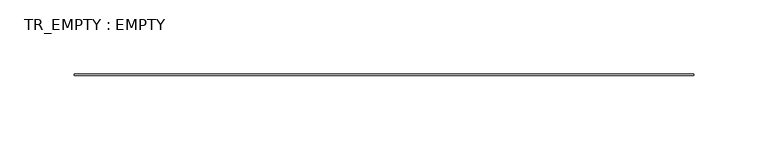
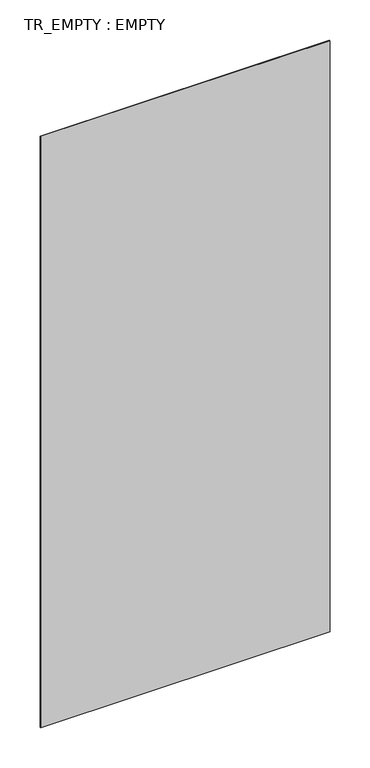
"""IFC4 building model written with IfcOpenShell, lengths in millimetres: plate geometry, TR_EMPTY : EMPTY."""

import ifcopenshell
import ifcopenshell.guid

model = None  # the IFC model being written
_history = None  # IfcOwnerHistory: only IFC2X3 demands one
_inside = {}  # id of a spatial element -> (the spatial element, [elements in it])
_under = {}  # id of a project, library or spatial element -> (it, [spatial elements below it])
_declared = {}  # id of a project -> (the project, [libraries it declares])
_typed = {}  # id of a type object -> (the type object, [elements of that type])
_made_of = {}  # id of a material, layer set ... -> (it, [elements and type objects made of it])


def new_model(schema):
    """Start an empty IFC model of exactly this schema.

    Asked for "IFC4X3", IfcOpenShell would pick the latest addendum, in which some entities
    have other attributes; the version numbers below select the first issue.
    IFC2X3 requires an IfcOwnerHistory on every rooted entity: one is made here for all.
    """
    global model, _history
    if schema == "IFC4X3":
        model = ifcopenshell.file(schema_version=(4, 3, 0, 0))
    else:
        model = ifcopenshell.file(schema=schema)
    _inside.clear()
    _under.clear()
    _declared.clear()
    _typed.clear()
    _made_of.clear()
    _history = None
    if model.schema == "IFC2X3":
        org = make("IfcOrganization", Name="unknown")
        user = make(
            "IfcPersonAndOrganization",
            ThePerson=make("IfcPerson", FamilyName="unknown"),
            TheOrganization=org,
        )
        app = make(
            "IfcApplication",
            ApplicationDeveloper=org,
            Version="unknown",
            ApplicationFullName="unknown",
            ApplicationIdentifier="unknown",
        )
        _history = make(
            "IfcOwnerHistory",
            OwningUser=user,
            OwningApplication=app,
            ChangeAction="ADDED",
            CreationDate=0,
        )
    return model


def make(cls, **values):
    """One entity of the class cls with the attributes given. An attribute that is None is left unset."""
    return model.create_entity(
        cls, **{name: value for name, value in values.items() if value is not None}
    )


def rooted(cls, **values):
    """An entity with a GlobalId (a new one), such as an element, a storey or a relation."""
    return make(cls, GlobalId=ifcopenshell.guid.new(), OwnerHistory=_history, **values)


def si_unit(unit_type, name, prefix=None):
    """IfcSIUnit, for example si_unit("LENGTHUNIT", "METRE", prefix="MILLI")."""
    return make("IfcSIUnit", UnitType=unit_type, Prefix=prefix, Name=name)


def assignment(units):
    """IfcUnitAssignment: the units of a project."""
    return None if units is None else make("IfcUnitAssignment", Units=units)


def point(xyz):
    """IfcCartesianPoint."""
    return None if xyz is None else make("IfcCartesianPoint", Coordinates=xyz)


def direction(xyz):
    """IfcDirection."""
    return None if xyz is None else make("IfcDirection", DirectionRatios=xyz)


def frame(location, z_axis=None, x_axis=None):
    """IfcAxis2Placement3D, a coordinate frame: its origin and axes. An axis left out is left unset."""
    return make(
        "IfcAxis2Placement3D",
        Location=point(location),
        Axis=direction(z_axis),
        RefDirection=direction(x_axis),
    )


def origin():
    """The frame at (0, 0, 0) with its axes left unset."""
    return frame((0.0, 0.0, 0.0))


def place(relative_to, where):
    """IfcLocalPlacement: puts the frame where relative to a parent placement (None: the world)."""
    return make(
        "IfcLocalPlacement", PlacementRelTo=relative_to, RelativePlacement=where
    )


def context(
    kind, dimensions, precision=None, world=None, true_north=None, identifier=None
):
    """IfcGeometricRepresentationContext, for example the 3D "Model" context."""
    return make(
        "IfcGeometricRepresentationContext",
        ContextIdentifier=identifier,
        ContextType=kind,
        CoordinateSpaceDimension=dimensions,
        Precision=precision,
        WorldCoordinateSystem=world,
        TrueNorth=true_north,
    )


def project(units=None, contexts=None):
    """IfcProject with its units and contexts."""
    return rooted(
        "IfcProject",
        Name="project",
        RepresentationContexts=contexts,
        UnitsInContext=assignment(units),
    )


def spatial(cls, under=None, at=None, **own):
    """A site, building, storey or space (cls), placed at a placement, below another one or the project."""
    s = rooted(cls, ObjectPlacement=at, **own)
    if under is not None:
        _under.setdefault(under.id(), (under, []))[1].append(s)
    return s


def polyline(points):
    """IfcPolyline through the points."""
    return make("IfcPolyline", Points=[point(p) for p in points])


def outline(outer, holes=None, kind="AREA"):
    """IfcArbitraryClosedProfileDef: a profile drawn as a closed curve; with holes, ...WithVoids."""
    if holes is None:
        return make("IfcArbitraryClosedProfileDef", ProfileType=kind, OuterCurve=outer)
    return make(
        "IfcArbitraryProfileDefWithVoids",
        ProfileType=kind,
        OuterCurve=outer,
        InnerCurves=holes,
    )


def extrude(swept, where, along, depth):
    """IfcExtrudedAreaSolid: the profile swept, set in the frame where, extruded along a direction by depth."""
    return make(
        "IfcExtrudedAreaSolid",
        SweptArea=swept,
        Position=where,
        ExtrudedDirection=direction(along),
        Depth=depth,
    )


def shape(context_of_items, identifier, shape_type, items):
    """IfcShapeRepresentation: the items that make up one representation, for example the "Body"."""
    return make(
        "IfcShapeRepresentation",
        ContextOfItems=context_of_items,
        RepresentationIdentifier=identifier,
        RepresentationType=shape_type,
        Items=items,
    )


def source(mapping_origin, context_of_items, identifier, shape_type, items):
    """IfcRepresentationMap: a shape defined once, which mapped items show again and again."""
    return make(
        "IfcRepresentationMap",
        MappingOrigin=mapping_origin,
        MappedRepresentation=shape(context_of_items, identifier, shape_type, items),
    )


def transform(
    local_origin,
    x_axis=None,
    y_axis=None,
    z_axis=None,
    scale=None,
    scale2=None,
    scale3=None,
    uniform=True,
):
    """IfcCartesianTransformationOperator3D, or its non-uniform kind. x_axis, y_axis, z_axis: its Axis1, 2, 3."""
    if uniform:
        return make(
            "IfcCartesianTransformationOperator3D",
            Axis1=direction(x_axis),
            Axis2=direction(y_axis),
            LocalOrigin=point(local_origin),
            Scale=scale,
            Axis3=direction(z_axis),
        )
    return make(
        "IfcCartesianTransformationOperator3DnonUniform",
        Axis1=direction(x_axis),
        Axis2=direction(y_axis),
        LocalOrigin=point(local_origin),
        Scale=scale,
        Axis3=direction(z_axis),
        Scale2=scale2,
        Scale3=scale3,
    )


def mapped(mapping_source, mapping_target):
    """IfcMappedItem: shows the shape of a source again, moved by a transform."""
    return make(
        "IfcMappedItem", MappingSource=mapping_source, MappingTarget=mapping_target
    )


def made_of(thing, what):
    """Note that an element or type object is made of a material, layer set ...; save() writes the relation."""
    if what is not None:
        _made_of.setdefault(what.id(), (what, []))[1].append(thing)
    return thing


def element(
    cls,
    number,
    at=None,
    inside=None,
    cuts=None,
    type_object=None,
    material=None,
    context=None,
    identifier="Body",
    shape_type=None,
    held_by="IfcProductDefinitionShape",
    body=None,
    shapes=None,
    **own,
):
    """One element of the class cls, such as IfcWall. Its Tag is "e" and its number.

    at: its placement. inside: the storey or other place that contains it. cuts: it is an
    opening in that element (IfcRelVoidsElement). A single representation is given by context,
    identifier, shape_type and body (its items); several are given by shapes. held_by: the class
    of the entity that holds the representations. save() writes the other relations.
    """
    e = rooted(cls, Tag="e%d" % number, ObjectPlacement=at, **own)
    if body is not None:
        shapes = [shape(context, identifier, shape_type, body)]
    if shapes is not None:
        e.Representation = make(held_by, Representations=shapes)
    if inside is not None:
        _inside.setdefault(inside.id(), (inside, []))[1].append(e)
    if cuts is not None:
        rooted(
            "IfcRelVoidsElement", RelatingBuildingElement=cuts, RelatedOpeningElement=e
        )
    if type_object is not None:
        _typed.setdefault(type_object.id(), (type_object, []))[1].append(e)
    return made_of(e, material)


def aggregate(whole, parts):
    """IfcRelAggregates: a whole, such as a stair, and the parts it consists of."""
    return rooted("IfcRelAggregates", RelatingObject=whole, RelatedObjects=parts)


def save(model, path):
    """Write the relations noted so far, then the file.

    IfcRelAggregates (storeys below a building ...), IfcRelContainedInSpatialStructure (elements
    in a storey), IfcRelDefinesByType, IfcRelAssociatesMaterial and IfcRelDeclares: one each for
    every whole, place, type object, material and project.
    """
    for whole, parts in _under.values():
        aggregate(whole, parts)
    for where, things in _inside.values():
        rooted(
            "IfcRelContainedInSpatialStructure",
            RelatedElements=things,
            RelatingStructure=where,
        )
    for kind, things in _typed.values():
        rooted("IfcRelDefinesByType", RelatedObjects=things, RelatingType=kind)
    for what, things in _made_of.values():
        rooted("IfcRelAssociatesMaterial", RelatedObjects=things, RelatingMaterial=what)
    for by, libraries in _declared.values():
        rooted("IfcRelDeclares", RelatingContext=by, RelatedDefinitions=libraries)
    model.write(path)


def tr_empty_empty_edf3b101(model_context):
    return source(origin(), model_context, "Body", "SweptSolid", [
        extrude(outline(polyline([(208.5, -31.0), (-208.5, -31.0), (-208.5, -30.0), (208.5, -30.0), (208.5, -31.0)])), frame((0.0, 0.0, 50.0), z_axis=(0.0, 0.0, 1.0), x_axis=(1.0, 0.0, 0.0)), (0.0, 0.0, 1.0), 900.0),
    ])


if __name__ == "__main__":
    model = new_model("IFC4")
    model_context = context("Model", 3, world=origin())
    ifc_project = project(units=[si_unit("LENGTHUNIT", "METRE", prefix="MILLI")], contexts=[model_context])
    site = spatial("IfcSite", under=ifc_project)
    building = spatial("IfcBuilding", under=site)
    placement = place(None, origin())
    tr_empty_empty_shape = tr_empty_empty_edf3b101(model_context)
    element("IfcPlate", 1, ObjectType="TR_EMPTY : EMPTY", at=placement, inside=building, context=model_context, shape_type="MappedRepresentation", body=[
        mapped(tr_empty_empty_shape, transform((0.0, 0.0, 0.0), x_axis=(1.0, 0.0, 0.0), y_axis=(0.0, 1.0, 0.0), z_axis=(0.0, 0.0, 1.0))),
    ])
    save(model, "model.ifc")
